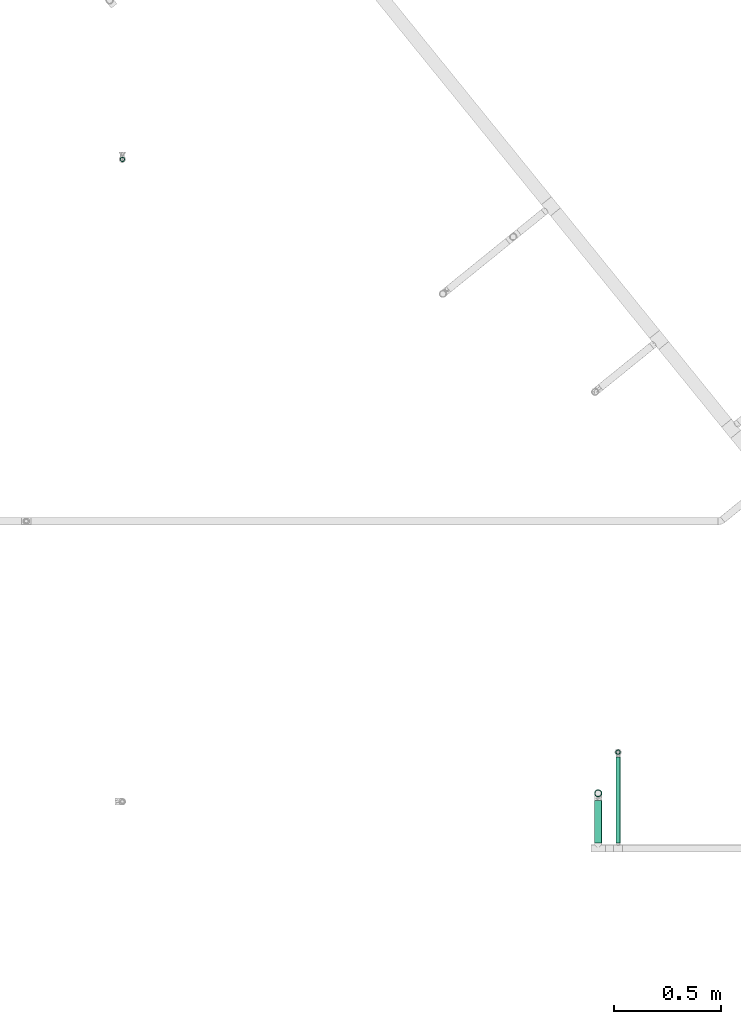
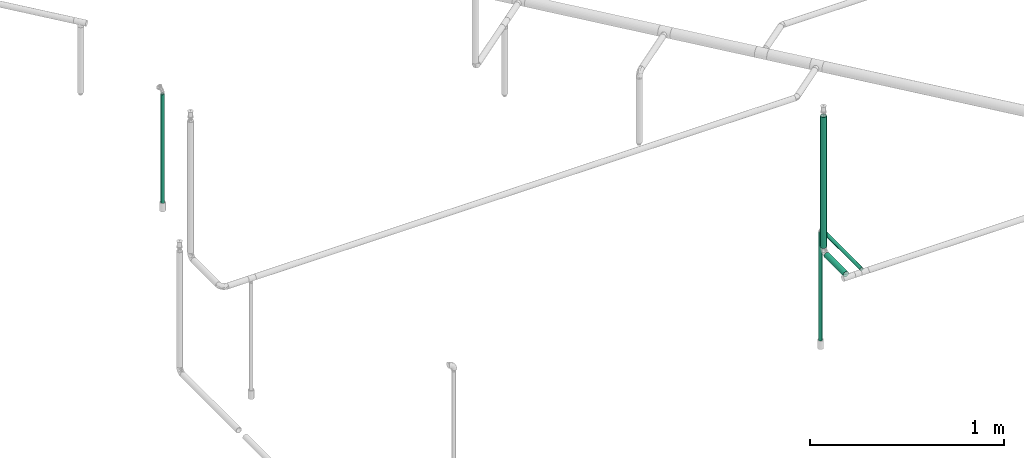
# One storey, part 15 of 94: 5 flow segments.
"""IFC2X3 building model written with IfcOpenShell, lengths in millimetres."""

from ifc_helpers import new_model, entity, si_unit, converted_unit, derived_unit, direction, frame, origin_with_axes, origin_2d_with_axis, place, context, subcontext, project, spatial, hollow_circle, extrude, source, transform, mapped, type_object, element, save


model = new_model("IFC2X3")

# Units and contexts
model_context = context("Model", 3, precision=0.01, world=frame((0.0, 4.29681676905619e-09, 0.0)), true_north=direction((4.01073788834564e-13, 1.0)))
plan_context = context("Plan", 3, precision=0.01, world=frame((0.0, 4.29681676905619e-09, 0.0)), true_north=direction((4.01073788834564e-13, 1.0)))
body_context = subcontext(model_context, "Body", "Model", "MODEL_VIEW")
ifc_project = project(units=[converted_unit("PLANEANGLEUNIT", "DEGREE", entity("IfcPositiveLengthMeasure", 0.0174532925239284), si_unit("PLANEANGLEUNIT", "RADIAN"), dimensions=[0, 0, 0, 0, 0, 0, 0]), si_unit("AREAUNIT", "SQUARE_METRE"), si_unit("LENGTHUNIT", "METRE", prefix="MILLI"), si_unit("MASSUNIT", "GRAM", prefix="KILO"), si_unit("POWERUNIT", "WATT"), si_unit("PRESSUREUNIT", "PASCAL", prefix="KILO"), si_unit("FORCEUNIT", "NEWTON", prefix="KILO"), si_unit("ELECTRICVOLTAGEUNIT", "VOLT"), si_unit("ELECTRICCURRENTUNIT", "AMPERE"), si_unit("THERMODYNAMICTEMPERATUREUNIT", "DEGREE_CELSIUS"), si_unit("TIMEUNIT", "SECOND"), si_unit("VOLUMEUNIT", "CUBIC_METRE"), derived_unit("LINEARVELOCITYUNIT", [(si_unit("LENGTHUNIT", "METRE"), 1), (si_unit("TIMEUNIT", "SECOND"), -1)]), derived_unit("VOLUMETRICFLOWRATEUNIT", [(si_unit("VOLUMEUNIT", "CUBIC_METRE"), 1), (si_unit("TIMEUNIT", "SECOND"), -1)]), derived_unit("THERMALTRANSMITTANCEUNIT", [(si_unit("POWERUNIT", "WATT"), 1), (si_unit("THERMODYNAMICTEMPERATUREUNIT", "KELVIN"), -1), (si_unit("AREAUNIT", "SQUARE_METRE"), -1)]), derived_unit("SOUNDPRESSUREUNIT", [(si_unit("PRESSUREUNIT", "PASCAL"), 1)])], contexts=[model_context, plan_context])

# Site, building, storey
site_placement = place(None, frame((0.0, -4.29681676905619e-09, 0.0), z_axis=(0.0, 0.0, 1.0), x_axis=(1.0, 0.0, 0.0)))
site = spatial("IfcSite", under=ifc_project, at=site_placement, CompositionType="ELEMENT")
building_placement = place(site_placement, frame((0.0, 4.29681676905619e-09, 0.0), z_axis=(0.0, 0.0, 1.0), x_axis=(1.0, 0.0, 0.0)))
building = spatial("IfcBuilding", under=site, at=building_placement, Name="mc-building", CompositionType="ELEMENT")
storey_placement = place(building_placement, frame((0.0, 0.0, 210900.0), z_axis=(0.0, 0.0, 1.0), x_axis=(1.0, 0.0, 0.0)))
storey = spatial("IfcBuildingStorey", under=building, at=storey_placement, Name="Nivå F", CompositionType="ELEMENT", Elevation=210900.0)

# Flow segments
pipe_segment_type = type_object("IfcPipeSegmentType", Name="Stålrør normaltykke", PredefinedType="RIGIDSEGMENT")
shared_shape_1 = source(origin_with_axes(), body_context, "Body", "SweptSolid", [
    extrude(hollow_circle(Radius=16.9, WallThickness=2.0, at=origin_2d_with_axis()), frame((0.0, 0.0, 0.0), z_axis=(1.0, 0.0, 0.0), x_axis=(0.0, 1.0, 0.0)), (0.0, 0.0, 1.0), 197.8),
])
flow_segment_1_placement = place(storey_placement, frame((727222.70412, 439008.09228, 3500.0), z_axis=(0.0, 0.0, 1.0), x_axis=(0.0, 1.0, 0.0)))
element("IfcFlowSegment", 1, at=flow_segment_1_placement, inside=storey, type_object=pipe_segment_type, Name="Stålrør normaltykke", context=body_context, shape_type="MappedRepresentation", body=[
    mapped(shared_shape_1, transform((0.0, 0.0, 0.0), scale=1.0)),
])
shared_shape_2 = source(origin_with_axes(), body_context, "Body", "SweptSolid", [
    extrude(hollow_circle(Radius=16.9, WallThickness=2.0, at=origin_2d_with_axis()), frame((0.0, 0.0, 0.0), z_axis=(1.0, 0.0, 0.0), x_axis=(0.0, 1.0, 0.0)), (0.0, 0.0, 1.0), 823.8),
])
flow_segment_2_placement = place(storey_placement, frame((727222.70412, 439239.73983, 3533.79999999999), z_axis=(0.0, 1.0, 0.0), x_axis=(0.0, 0.0, 1.0)))
element("IfcFlowSegment", 2, at=flow_segment_2_placement, inside=storey, type_object=pipe_segment_type, Name="Stålrør normaltykke", context=body_context, shape_type="MappedRepresentation", body=[
    mapped(shared_shape_2, transform((0.0, 0.0, 0.0), scale=1.0, scale2=1.0, scale3=1.0, uniform=False)),
])
shared_shape_3 = source(origin_with_axes(), body_context, "Body", "SweptSolid", [
    extrude(hollow_circle(Radius=10.7, WallThickness=2.0, at=origin_2d_with_axis()), frame((0.0, 0.0, 0.0), z_axis=(1.0, 0.0, 0.0), x_axis=(0.0, 1.0, 0.0)), (0.0, 0.0, 1.0), 681.6),
])
flow_segment_3_placement = place(storey_placement, frame((727315.79619, 439431.58279, 3478.60000000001), z_axis=(0.0, 1.0, 0.0), x_axis=(0.0, 0.0, -1.0)))
element("IfcFlowSegment", 3, at=flow_segment_3_placement, inside=storey, type_object=pipe_segment_type, Name="Stålrør normaltykke", context=body_context, shape_type="MappedRepresentation", body=[
    mapped(shared_shape_3, transform((0.0, 0.0, 0.0), scale=1.0)),
])
shared_shape_4 = source(origin_with_axes(), body_context, "Body", "SweptSolid", [
    extrude(hollow_circle(Radius=10.7, WallThickness=2.0, at=origin_2d_with_axis()), frame((0.0, 0.0, 0.0), z_axis=(1.0, 0.0, 0.0), x_axis=(0.0, 1.0, 0.0)), (0.0, 0.0, 1.0), 684.1),
])
flow_segment_4_placement = place(storey_placement, frame((725000.0, 442200.7, 2794.49074000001), z_axis=(0.0, -1.0, 0.0), x_axis=(0.0, 0.0, 1.0)))
element("IfcFlowSegment", 4, at=flow_segment_4_placement, inside=storey, type_object=pipe_segment_type, Name="Stålrør normaltykke", context=body_context, shape_type="MappedRepresentation", body=[
    mapped(shared_shape_4, transform((0.0, 0.0, 0.0), scale=1.0)),
])
shared_shape_5 = source(origin_with_axes(), body_context, "Body", "SweptSolid", [
    extrude(hollow_circle(Radius=10.7, WallThickness=2.0, at=origin_2d_with_axis()), frame((0.0, 0.0, 0.0), z_axis=(1.0, 0.0, 0.0), x_axis=(0.0, 1.0, 0.0)), (0.0, 0.0, 1.0), 402.1),
])
flow_segment_5_placement = place(storey_placement, frame((727315.79619, 439008.09228, 3500.0), z_axis=(0.0, 0.0, 1.0), x_axis=(0.0, 1.0, 0.0)))
element("IfcFlowSegment", 5, at=flow_segment_5_placement, inside=storey, type_object=pipe_segment_type, Name="Stålrør normaltykke", context=body_context, shape_type="MappedRepresentation", body=[
    mapped(shared_shape_5, transform((0.0, 0.0, 0.0), scale=1.0)),
])

save(model, "model.ifc")
